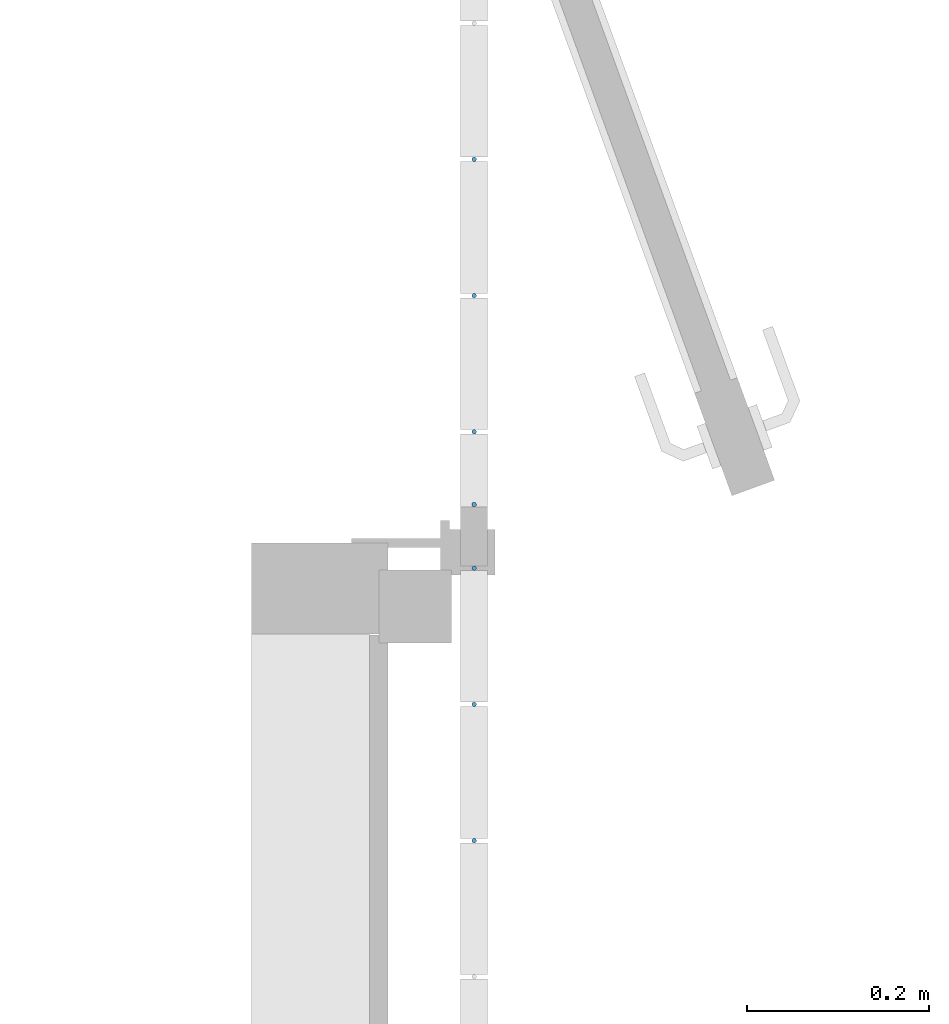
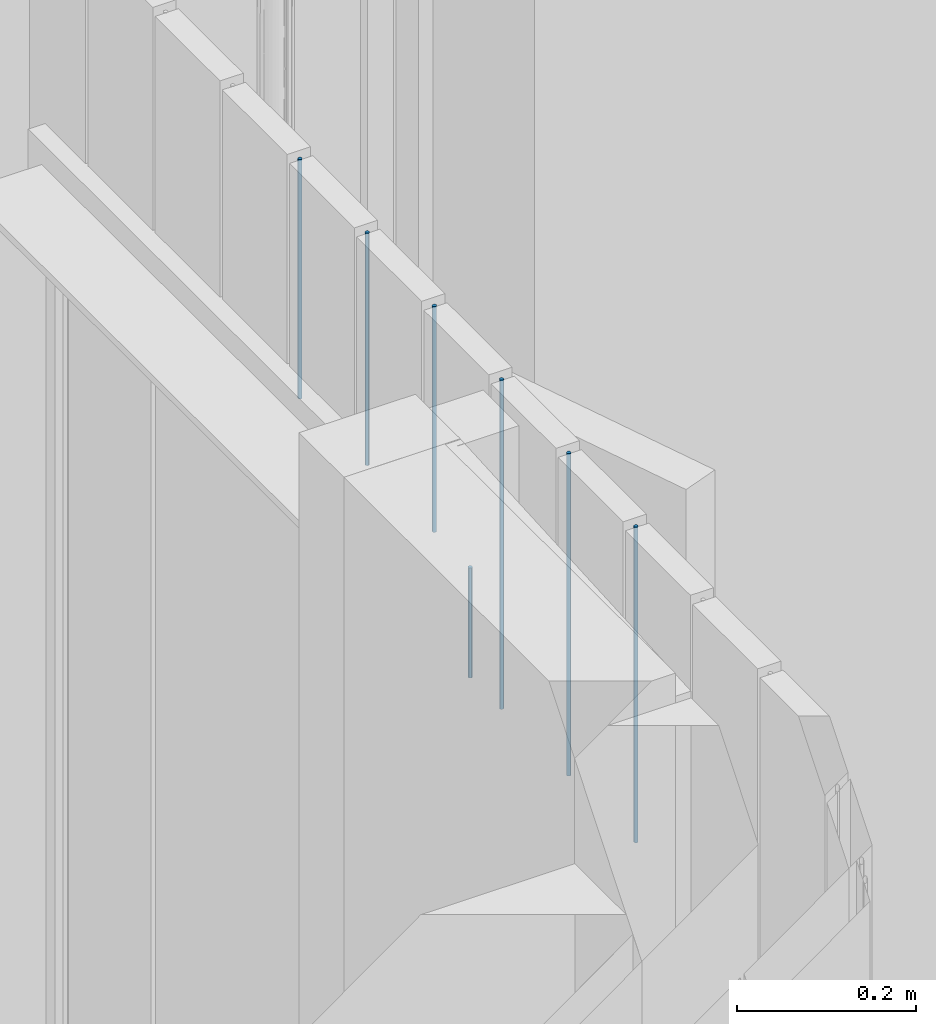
# One storey, part 59 of 81: 7 members, 1 element without a shape of its own.
"""IFC2X3 building model written with IfcOpenShell, lengths in metres."""

from ifc_helpers import new_model, entity, si_unit, converted_unit, derived_unit, direction, frame, frame_2d, origin, place, context, subcontext, project, spatial, circle, extrude, source, transform, mapped, material, type_object, type_shapes, element, aggregate, save


model = new_model("IFC2X3")

# Units and contexts
model_context = context("Model", 3, precision=1e-05, world=origin(), true_north=direction((6.12303176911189e-17, 1.0)))
body_context = subcontext(model_context, "Body", "Model", "MODEL_VIEW")
ifc_project = project(units=[si_unit("LENGTHUNIT", "METRE"), si_unit("AREAUNIT", "SQUARE_METRE"), si_unit("VOLUMEUNIT", "CUBIC_METRE"), converted_unit("PLANEANGLEUNIT", "DEGREE", entity("IfcRatioMeasure", 0.0174532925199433), si_unit("PLANEANGLEUNIT", "RADIAN"), dimensions=[0, 0, 0, 0, 0, 0, 0]), si_unit("MASSUNIT", "GRAM", prefix="KILO"), derived_unit("MASSDENSITYUNIT", [(si_unit("MASSUNIT", "GRAM", prefix="KILO"), 1), (si_unit("LENGTHUNIT", "METRE"), -3)]), derived_unit("MOMENTOFINERTIAUNIT", [(si_unit("LENGTHUNIT", "METRE"), 4)]), si_unit("TIMEUNIT", "SECOND"), si_unit("FREQUENCYUNIT", "HERTZ"), si_unit("THERMODYNAMICTEMPERATUREUNIT", "DEGREE_CELSIUS"), derived_unit("THERMALTRANSMITTANCEUNIT", [(si_unit("MASSUNIT", "GRAM", prefix="KILO"), 1), (si_unit("THERMODYNAMICTEMPERATUREUNIT", "KELVIN"), -1), (si_unit("TIMEUNIT", "SECOND"), -3)]), derived_unit("VOLUMETRICFLOWRATEUNIT", [(si_unit("LENGTHUNIT", "METRE"), 3), (si_unit("TIMEUNIT", "SECOND"), -1)]), si_unit("ELECTRICCURRENTUNIT", "AMPERE"), si_unit("ELECTRICVOLTAGEUNIT", "VOLT"), si_unit("POWERUNIT", "WATT"), si_unit("FORCEUNIT", "NEWTON", prefix="KILO"), si_unit("ILLUMINANCEUNIT", "LUX"), si_unit("LUMINOUSFLUXUNIT", "LUMEN"), si_unit("LUMINOUSINTENSITYUNIT", "CANDELA"), derived_unit("USERDEFINED", [(si_unit("MASSUNIT", "GRAM", prefix="KILO"), -1), (si_unit("LENGTHUNIT", "METRE"), -2), (si_unit("TIMEUNIT", "SECOND"), 3), (si_unit("LUMINOUSFLUXUNIT", "LUMEN"), 1)]), derived_unit("LINEARVELOCITYUNIT", [(si_unit("LENGTHUNIT", "METRE"), 1), (si_unit("TIMEUNIT", "SECOND"), -1)]), si_unit("PRESSUREUNIT", "PASCAL"), derived_unit("USERDEFINED", [(si_unit("LENGTHUNIT", "METRE"), -2), (si_unit("MASSUNIT", "GRAM", prefix="KILO"), 1), (si_unit("TIMEUNIT", "SECOND"), -2)]), derived_unit("LINEARFORCEUNIT", [(si_unit("MASSUNIT", "GRAM", prefix="KILO"), 1), (si_unit("LENGTHUNIT", "METRE"), 1), (si_unit("TIMEUNIT", "SECOND"), -2), (si_unit("LENGTHUNIT", "METRE"), -1)]), derived_unit("PLANARFORCEUNIT", [(si_unit("MASSUNIT", "GRAM", prefix="KILO"), 1), (si_unit("LENGTHUNIT", "METRE"), 1), (si_unit("TIMEUNIT", "SECOND"), -2), (si_unit("LENGTHUNIT", "METRE"), -2)])], contexts=[model_context])

# Site, building, storey
site_placement = place(None, origin())
site = spatial("IfcSite", under=ifc_project, at=site_placement, Name="Surface", CompositionType="ELEMENT")
building_placement = place(site_placement, origin())
building = spatial("IfcBuilding", under=site, at=building_placement, CompositionType="ELEMENT")
storey_placement = place(building_placement, origin())
storey = spatial("IfcBuildingStorey", under=building, at=storey_placement, Name="01 RDC", CompositionType="ELEMENT", Elevation=-1.94916083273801e-14)

# Curtain wall, members
curtain_wall_type = type_object("IfcCurtainWallType", Name="Mur-rideau:1m x 2m", PredefinedType="NOTDEFINED")
curtain_wall_placement = place(storey_placement, origin())
curtain_wall = element("IfcCurtainWall", 1, at=curtain_wall_placement, inside=storey, type_object=curtain_wall_type, Name="Mur-rideau:1m x 2m", ObjectType="Mur-rideau:1m x 2m")
ifc_material = material(Name="Aluminium - Vert")
member_type_1 = type_object("IfcMemberType", Name="Meneau circulaire:R-30 mm", PredefinedType="MULLION", material=ifc_material)
shared_shape_1 = source(origin(), body_context, "Body", "SweptSolid", [
    extrude(circle(Radius=0.0025, at=frame_2d((-1.30499213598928e-32, 4.03886143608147e-18), x_axis=(1.0, 0.0))), frame((0.0, 0.0, -0.326061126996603), z_axis=(0.0, 0.0, 1.0), x_axis=(-1.0, 0.0, 0.0)), (0.0, 0.0, 1.0), 0.326061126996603),
])
type_shapes(member_type_1, [shared_shape_1])
member_1_placement = place(storey_placement, frame((8.02156158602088, -5.04346095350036, 2.15), z_axis=(0.0, 0.0, -1.0), x_axis=(0.0, -1.0, 0.0)))
member_1 = element("IfcMember", 2, at=member_1_placement, type_object=member_type_1, material=ifc_material, Name="Meneau circulaire:R-30 mm", ObjectType="Meneau circulaire:R-30 mm", context=body_context, shape_type="MappedRepresentation", body=[
    mapped(shared_shape_1, transform((0.0, 0.0, 0.0), scale=1.0)),
])
member_type_2 = type_object("IfcMemberType", Name="Meneau circulaire:R-30 mm", PredefinedType="MULLION", material=ifc_material)
shared_shape_2 = source(origin(), body_context, "Body", "SweptSolid", [
    extrude(circle(Radius=0.0025, at=frame_2d((-1.30499213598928e-32, 4.03886143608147e-18), x_axis=(1.0, 0.0))), frame((0.0, 0.0, -0.316886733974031), z_axis=(0.0, 0.0, 1.0), x_axis=(-1.0, 0.0, 0.0)), (0.0, 0.0, 1.0), 0.316886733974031),
])
type_shapes(member_type_2, [shared_shape_2])
member_2_placement = place(storey_placement, frame((8.02156158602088, -5.19346095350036, 2.15), z_axis=(0.0, 0.0, -1.0), x_axis=(0.0, -1.0, 0.0)))
member_2 = element("IfcMember", 3, at=member_2_placement, type_object=member_type_2, material=ifc_material, Name="Meneau circulaire:R-30 mm", ObjectType="Meneau circulaire:R-30 mm", context=body_context, shape_type="MappedRepresentation", body=[
    mapped(shared_shape_2, transform((0.0, 0.0, 0.0), scale=1.0)),
])
member_type_3 = type_object("IfcMemberType", Name="Meneau circulaire:R-30 mm", PredefinedType="MULLION", material=ifc_material)
shared_shape_3 = source(origin(), body_context, "Body", "SweptSolid", [
    extrude(circle(Radius=0.0025, at=frame_2d((-1.30499213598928e-32, 4.03886143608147e-18), x_axis=(1.0, 0.0))), frame((0.0, 0.0, -0.307712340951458), z_axis=(0.0, 0.0, 1.0), x_axis=(-1.0, 0.0, 0.0)), (0.0, 0.0, 1.0), 0.307712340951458),
])
type_shapes(member_type_3, [shared_shape_3])
member_3_placement = place(storey_placement, frame((8.02156158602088, -5.34346095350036, 2.15), z_axis=(0.0, 0.0, -1.0), x_axis=(0.0, -1.0, 0.0)))
member_3 = element("IfcMember", 4, at=member_3_placement, type_object=member_type_3, material=ifc_material, Name="Meneau circulaire:R-30 mm", ObjectType="Meneau circulaire:R-30 mm", context=body_context, shape_type="MappedRepresentation", body=[
    mapped(shared_shape_3, transform((0.0, 0.0, 0.0), scale=1.0)),
])
member_type_4 = type_object("IfcMemberType", Name="Meneau circulaire:R-30 mm", PredefinedType="MULLION", material=ifc_material)
shared_shape_4 = source(origin(), body_context, "Body", "SweptSolid", [
    extrude(circle(Radius=0.0025, at=frame_2d((-1.30499213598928e-32, 4.03886143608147e-18), x_axis=(1.0, 0.0))), frame((0.0, 0.0, -0.448537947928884), z_axis=(0.0, 0.0, 1.0), x_axis=(-1.0, 0.0, 0.0)), (0.0, 0.0, 1.0), 0.448537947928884),
])
type_shapes(member_type_4, [shared_shape_4])
member_4_placement = place(storey_placement, frame((8.02156158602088, -5.49346095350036, 2.0), z_axis=(0.0, 0.0, -1.0), x_axis=(0.0, -1.0, 0.0)))
member_4 = element("IfcMember", 5, at=member_4_placement, type_object=member_type_4, material=ifc_material, Name="Meneau circulaire:R-30 mm", ObjectType="Meneau circulaire:R-30 mm", context=body_context, shape_type="MappedRepresentation", body=[
    mapped(shared_shape_4, transform((0.0, 0.0, 0.0), scale=1.0)),
])
member_type_5 = type_object("IfcMemberType", Name="Meneau circulaire:R-30 mm", PredefinedType="MULLION", material=ifc_material)
shared_shape_5 = source(origin(), body_context, "Body", "SweptSolid", [
    extrude(circle(Radius=0.0025, at=frame_2d((-1.30499213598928e-32, 4.03886143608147e-18), x_axis=(1.0, 0.0))), frame((0.0, 0.0, -0.439363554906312), z_axis=(0.0, 0.0, 1.0), x_axis=(-1.0, 0.0, 0.0)), (0.0, 0.0, 1.0), 0.439363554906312),
])
type_shapes(member_type_5, [shared_shape_5])
member_5_placement = place(storey_placement, frame((8.02156158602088, -5.64346095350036, 2.0), z_axis=(0.0, 0.0, -1.0), x_axis=(0.0, -1.0, 0.0)))
member_5 = element("IfcMember", 6, at=member_5_placement, type_object=member_type_5, material=ifc_material, Name="Meneau circulaire:R-30 mm", ObjectType="Meneau circulaire:R-30 mm", context=body_context, shape_type="MappedRepresentation", body=[
    mapped(shared_shape_5, transform((0.0, 0.0, 0.0), scale=1.0)),
])
member_type_6 = type_object("IfcMemberType", Name="Meneau circulaire:R-30 mm", PredefinedType="MULLION", material=ifc_material)
shared_shape_6 = source(origin(), body_context, "Body", "SweptSolid", [
    extrude(circle(Radius=0.0025, at=frame_2d((-1.30499213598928e-32, 4.03886143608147e-18), x_axis=(1.0, 0.0))), frame((0.0, 0.0, -0.430189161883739), z_axis=(0.0, 0.0, 1.0), x_axis=(-1.0, 0.0, 0.0)), (0.0, 0.0, 1.0), 0.430189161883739),
])
type_shapes(member_type_6, [shared_shape_6])
member_6_placement = place(storey_placement, frame((8.02156158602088, -5.79346095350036, 2.0), z_axis=(0.0, 0.0, -1.0), x_axis=(0.0, -1.0, 0.0)))
member_6 = element("IfcMember", 7, at=member_6_placement, type_object=member_type_6, material=ifc_material, Name="Meneau circulaire:R-30 mm", ObjectType="Meneau circulaire:R-30 mm", context=body_context, shape_type="MappedRepresentation", body=[
    mapped(shared_shape_6, transform((0.0, 0.0, 0.0), scale=1.0)),
])
member_type_7 = type_object("IfcMemberType", Name="Meneau circulaire:R-30 mm", PredefinedType="MULLION", material=ifc_material)
shared_shape_7 = source(origin(), body_context, "Body", "SweptSolid", [
    extrude(circle(Radius=0.0025, at=frame_2d((-1.17965647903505e-32, 3.7744895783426e-18), x_axis=(1.0, 0.0))), frame((-0.0025, 0.0, -0.149999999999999)), (0.0, 0.0, 1.0), 0.149999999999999),
])
type_shapes(member_type_7, [shared_shape_7])
member_7_placement = place(storey_placement, frame((8.02156158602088, -5.42096095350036, 2.15), z_axis=(0.0, 0.0, 1.0), x_axis=(0.0, 1.0, 0.0)))
member_7 = element("IfcMember", 8, at=member_7_placement, type_object=member_type_7, material=ifc_material, Name="Meneau circulaire:R-30 mm", ObjectType="Meneau circulaire:R-30 mm", context=body_context, shape_type="MappedRepresentation", body=[
    mapped(shared_shape_7, transform((0.0, 0.0, 0.0), scale=1.0)),
])
aggregate(curtain_wall, [member_1, member_2, member_3, member_4, member_5, member_6, member_7])

save(model, "model.ifc")
